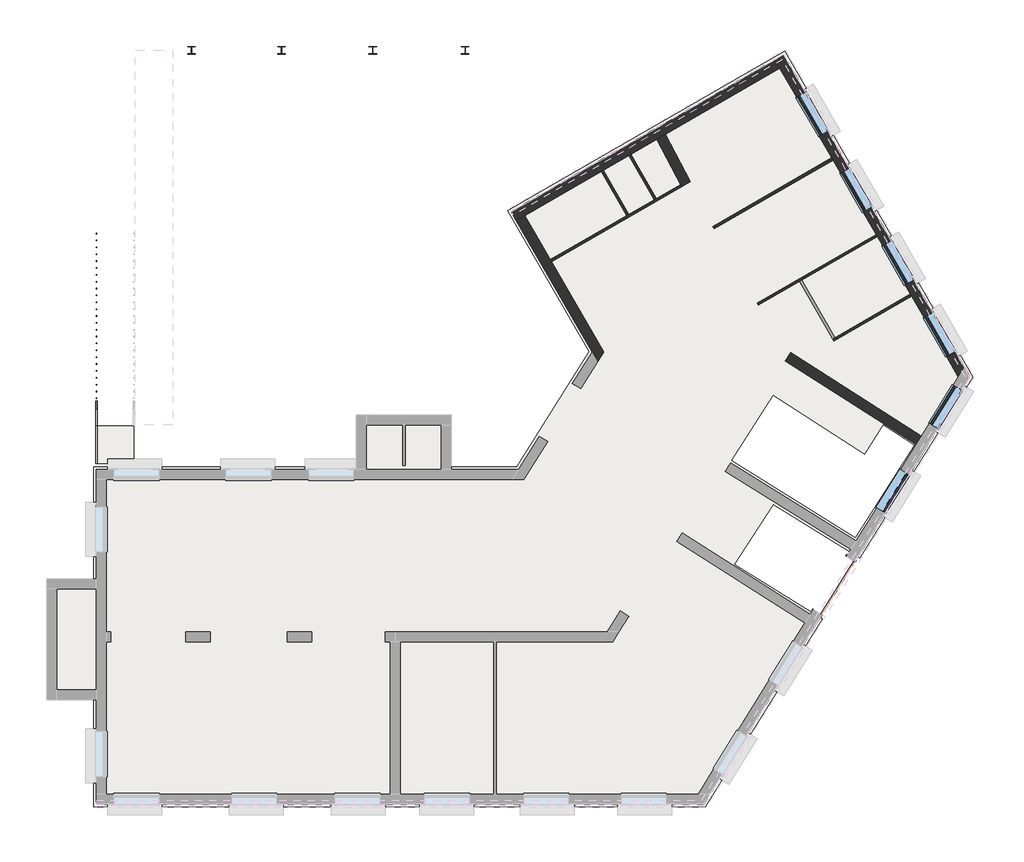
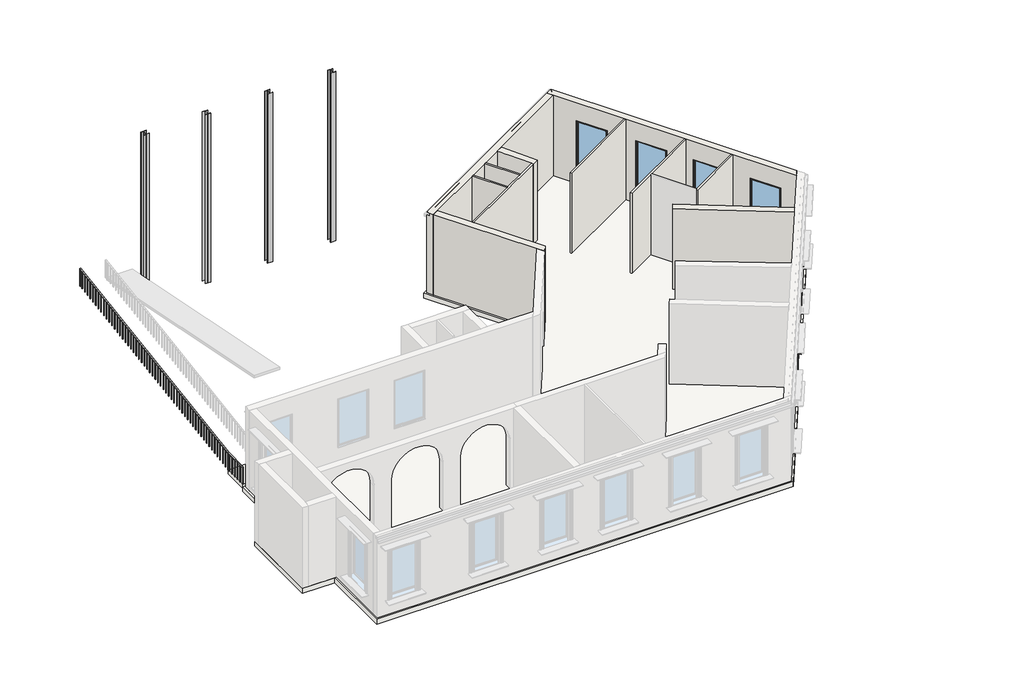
# One storey, part 2 of 3: 11 walls, 6 windows, 4 columns, 2 slabs, 1 door, 1 railing.
"""IFC4 building model written with IfcOpenShell, lengths in millimetres."""

from ifc_helpers import new_model, si_unit, frame, origin, place, context, project, spatial, polyline, outline, extrude, faceted_brep, transform, mapped, element, save
from components import uc_universal_columns_column_uc305x305x97_fef2955b, door_19680be1, windows_sgl_plain_1810x1210mm_53e896f1

model = new_model("IFC4")

# Units and contexts
model_context = context("Model", 3, world=origin())
ifc_project = project(units=[si_unit("LENGTHUNIT", "METRE", prefix="MILLI")], contexts=[model_context])

# Site, building, storey
site = spatial("IfcSite", under=ifc_project)
building = spatial("IfcBuilding", under=site)
storey = spatial("IfcBuildingStorey", under=building, Name="PLINT LEVEL +1.00", Elevation=1000.0)

# Columns
placement = place(None, origin())
uc_universal_columns_column_uc305x305x97_shape = uc_universal_columns_column_uc305x305x97_fef2955b(model_context)
element("IfcColumn", 1, ObjectType="UC-Universal Columns-Column : UC305x305x97", at=placement, inside=storey, context=model_context, shape_type="MappedRepresentation", body=[
    mapped(uc_universal_columns_column_uc305x305x97_shape, transform((-9531.6874983, 26290.0288254, 0.0), x_axis=(1.0, 0.0, 0.0), y_axis=(0.0, 1.0, 0.0), z_axis=(0.0, 0.0, 1.0))),
])
element("IfcColumn", 2, ObjectType="UC-Universal Columns-Column : UC305x305x97", at=placement, inside=storey, context=model_context, shape_type="MappedRepresentation", body=[
    mapped(uc_universal_columns_column_uc305x305x97_shape, transform((-5929.1066547, 26290.0288254, 0.0), x_axis=(1.0, 0.0, 0.0), y_axis=(0.0, 1.0, 0.0), z_axis=(0.0, 0.0, 1.0))),
])
element("IfcColumn", 3, ObjectType="UC-Universal Columns-Column : UC305x305x97", at=placement, inside=storey, context=model_context, shape_type="MappedRepresentation", body=[
    mapped(uc_universal_columns_column_uc305x305x97_shape, transform((-2271.6874983, 26290.0288254, 0.0), x_axis=(1.0, 0.0, 0.0), y_axis=(0.0, 1.0, 0.0), z_axis=(0.0, 0.0, 1.0))),
])
element("IfcColumn", 4, ObjectType="UC-Universal Columns-Column : UC305x305x97", at=placement, inside=storey, context=model_context, shape_type="MappedRepresentation", body=[
    mapped(uc_universal_columns_column_uc305x305x97_shape, transform((1428.3125017, 26290.0288254, 0.0), x_axis=(1.0, 0.0, 0.0), y_axis=(0.0, 1.0, 0.0), z_axis=(0.0, 0.0, 1.0))),
])

# Door
door_shape = door_19680be1(model_context)
element("IfcDoor", 5, ObjectType="Door-Double-Flush_Panel : 68\" x 80\"", at=placement, inside=storey, context=model_context, shape_type="MappedRepresentation", body=[
    mapped(door_shape, transform((16199.2771515, 4847.2937751, 1000.0), x_axis=(-0.5287625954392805, -0.8487697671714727, 0.0), y_axis=(0.8487697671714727, -0.5287625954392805, 0.0), z_axis=(0.0, 0.0, 1.0))),
])

# Railing
element("IfcRailing", 6, ObjectType="1100mm", at=placement, inside=storey, context=model_context, shape_type="SolidModel", body=[
    faceted_brep([(-13356.6874983, 26307.200745, 4400.0), (-13306.6874983, 26307.200745, 4400.0), (-13306.6874983, 26307.200745, 4349.4202574), (-13356.6874983, 26307.200745, 4349.4202574), (-13356.6874983, 11250.9967988, 2050.0), (-13356.6874983, 11247.200745, 2100.0), (-13306.6874983, 11250.9967988, 2050.0), (-13306.6874983, 11247.200745, 2100.0), (-13356.6874983, 9747.200745, 2100.0), (-13356.6874983, 9747.200745, 2050.0), (-13306.6874983, 9747.200745, 2050.0), (-13306.6874983, 9747.200745, 2100.0)], [[[0, 1, 2, 3]], [[4, 5, 0, 3]], [[6, 4, 3, 2]], [[7, 6, 2, 1]], [[5, 7, 1, 0]], [[8, 9, 10, 11]], [[9, 8, 5, 4]], [[10, 9, 4, 6]], [[11, 10, 6, 7]], [[8, 11, 7, 5]]]),
    extrude(outline(polyline([(26084.700745, 3267.9282869), (26084.700745, 4315.4395137), (26109.700745, 4319.2575748), (26109.700745, 3267.9282869), (26084.700745, 3267.9282869)])), frame((-13344.1874983, 0.0, 0.0), z_axis=(1.0, 0.0, 0.0), x_axis=(0.0, 1.0, 0.0)), (0.0, 0.0, 1.0), 25.0),
    extrude(outline(polyline([(25809.700745, 3225.9296149), (25809.700745, 4273.4408417), (25834.700745, 4277.2589028), (25834.700745, 3225.9296149), (25809.700745, 3225.9296149)])), frame((-13344.1874983, 0.0, 0.0), z_axis=(1.0, 0.0, 0.0), x_axis=(0.0, 1.0, 0.0)), (0.0, 0.0, 1.0), 25.0),
    extrude(outline(polyline([(25534.700745, 3183.9309429), (25534.700745, 4231.4421697), (25559.700745, 4235.2602308), (25559.700745, 3183.9309429), (25534.700745, 3183.9309429)])), frame((-13344.1874983, 0.0, 0.0), z_axis=(1.0, 0.0, 0.0), x_axis=(0.0, 1.0, 0.0)), (0.0, 0.0, 1.0), 25.0),
    extrude(outline(polyline([(25259.700745, 3141.9322709), (25259.700745, 4189.4434978), (25284.700745, 4193.2615589), (25284.700745, 3141.9322709), (25259.700745, 3141.9322709)])), frame((-13344.1874983, 0.0, 0.0), z_axis=(1.0, 0.0, 0.0), x_axis=(0.0, 1.0, 0.0)), (0.0, 0.0, 1.0), 25.0),
    extrude(outline(polyline([(24984.700745, 3099.9335989), (24984.700745, 4147.4448258), (25009.700745, 4151.2628869), (25009.700745, 3099.9335989), (24984.700745, 3099.9335989)])), frame((-13344.1874983, 0.0, 0.0), z_axis=(1.0, 0.0, 0.0), x_axis=(0.0, 1.0, 0.0)), (0.0, 0.0, 1.0), 25.0),
    extrude(outline(polyline([(24709.700745, 3057.934927), (24709.700745, 4105.4461538), (24734.700745, 4109.2642149), (24734.700745, 3057.934927), (24709.700745, 3057.934927)])), frame((-13344.1874983, 0.0, 0.0), z_axis=(1.0, 0.0, 0.0), x_axis=(0.0, 1.0, 0.0)), (0.0, 0.0, 1.0), 25.0),
    extrude(outline(polyline([(24434.700745, 3015.936255), (24434.700745, 4063.4474818), (24459.700745, 4067.2655429), (24459.700745, 3015.936255), (24434.700745, 3015.936255)])), frame((-13344.1874983, 0.0, 0.0), z_axis=(1.0, 0.0, 0.0), x_axis=(0.0, 1.0, 0.0)), (0.0, 0.0, 1.0), 25.0),
    extrude(outline(polyline([(24159.700745, 2973.937583), (24159.700745, 4021.4488099), (24184.700745, 4025.2668709), (24184.700745, 2973.937583), (24159.700745, 2973.937583)])), frame((-13344.1874983, 0.0, 0.0), z_axis=(1.0, 0.0, 0.0), x_axis=(0.0, 1.0, 0.0)), (0.0, 0.0, 1.0), 25.0),
    extrude(outline(polyline([(23884.700745, 2931.938911), (23884.700745, 3979.4501379), (23909.700745, 3983.268199), (23909.700745, 2931.938911), (23884.700745, 2931.938911)])), frame((-13344.1874983, 0.0, 0.0), z_axis=(1.0, 0.0, 0.0), x_axis=(0.0, 1.0, 0.0)), (0.0, 0.0, 1.0), 25.0),
    extrude(outline(polyline([(23609.700745, 2889.940239), (23609.700745, 3937.4514659), (23634.700745, 3941.269527), (23634.700745, 2889.940239), (23609.700745, 2889.940239)])), frame((-13344.1874983, 0.0, 0.0), z_axis=(1.0, 0.0, 0.0), x_axis=(0.0, 1.0, 0.0)), (0.0, 0.0, 1.0), 25.0),
    extrude(outline(polyline([(23334.700745, 2847.9415671), (23334.700745, 3895.4527939), (23359.700745, 3899.270855), (23359.700745, 2847.9415671), (23334.700745, 2847.9415671)])), frame((-13344.1874983, 0.0, 0.0), z_axis=(1.0, 0.0, 0.0), x_axis=(0.0, 1.0, 0.0)), (0.0, 0.0, 1.0), 25.0),
    extrude(outline(polyline([(23059.700745, 2805.9428951), (23059.700745, 3853.4541219), (23084.700745, 3857.272183), (23084.700745, 2805.9428951), (23059.700745, 2805.9428951)])), frame((-13344.1874983, 0.0, 0.0), z_axis=(1.0, 0.0, 0.0), x_axis=(0.0, 1.0, 0.0)), (0.0, 0.0, 1.0), 25.0),
    extrude(outline(polyline([(22784.700745, 2763.9442231), (22784.700745, 3811.45545), (22809.700745, 3815.273511), (22809.700745, 2763.9442231), (22784.700745, 2763.9442231)])), frame((-13344.1874983, 0.0, 0.0), z_axis=(1.0, 0.0, 0.0), x_axis=(0.0, 1.0, 0.0)), (0.0, 0.0, 1.0), 25.0),
    extrude(outline(polyline([(22509.700745, 2721.9455511), (22509.700745, 3769.456778), (22534.700745, 3773.2748391), (22534.700745, 2721.9455511), (22509.700745, 2721.9455511)])), frame((-13344.1874983, 0.0, 0.0), z_axis=(1.0, 0.0, 0.0), x_axis=(0.0, 1.0, 0.0)), (0.0, 0.0, 1.0), 25.0),
    extrude(outline(polyline([(22234.700745, 2679.9468792), (22234.700745, 3727.458106), (22259.700745, 3731.2761671), (22259.700745, 2679.9468792), (22234.700745, 2679.9468792)])), frame((-13344.1874983, 0.0, 0.0), z_axis=(1.0, 0.0, 0.0), x_axis=(0.0, 1.0, 0.0)), (0.0, 0.0, 1.0), 25.0),
    extrude(outline(polyline([(21959.700745, 2637.9482072), (21959.700745, 3685.459434), (21984.700745, 3689.2774951), (21984.700745, 2637.9482072), (21959.700745, 2637.9482072)])), frame((-13344.1874983, 0.0, 0.0), z_axis=(1.0, 0.0, 0.0), x_axis=(0.0, 1.0, 0.0)), (0.0, 0.0, 1.0), 25.0),
    extrude(outline(polyline([(21684.700745, 2595.9495352), (21684.700745, 3643.460762), (21709.700745, 3647.2788231), (21709.700745, 2595.9495352), (21684.700745, 2595.9495352)])), frame((-13344.1874983, 0.0, 0.0), z_axis=(1.0, 0.0, 0.0), x_axis=(0.0, 1.0, 0.0)), (0.0, 0.0, 1.0), 25.0),
    extrude(outline(polyline([(21409.700745, 2553.9508632), (21409.700745, 3601.4620901), (21434.700745, 3605.2801512), (21434.700745, 2553.9508632), (21409.700745, 2553.9508632)])), frame((-13344.1874983, 0.0, 0.0), z_axis=(1.0, 0.0, 0.0), x_axis=(0.0, 1.0, 0.0)), (0.0, 0.0, 1.0), 25.0),
    extrude(outline(polyline([(21134.700745, 2511.9521912), (21134.700745, 3559.4634181), (21159.700745, 3563.2814792), (21159.700745, 2511.9521912), (21134.700745, 2511.9521912)])), frame((-13344.1874983, 0.0, 0.0), z_axis=(1.0, 0.0, 0.0), x_axis=(0.0, 1.0, 0.0)), (0.0, 0.0, 1.0), 25.0),
    extrude(outline(polyline([(20859.700745, 2469.9535193), (20859.700745, 3517.4647461), (20884.700745, 3521.2828072), (20884.700745, 2469.9535193), (20859.700745, 2469.9535193)])), frame((-13344.1874983, 0.0, 0.0), z_axis=(1.0, 0.0, 0.0), x_axis=(0.0, 1.0, 0.0)), (0.0, 0.0, 1.0), 25.0),
    extrude(outline(polyline([(20584.700745, 2427.9548473), (20584.700745, 3475.4660741), (20609.700745, 3479.2841352), (20609.700745, 2427.9548473), (20584.700745, 2427.9548473)])), frame((-13344.1874983, 0.0, 0.0), z_axis=(1.0, 0.0, 0.0), x_axis=(0.0, 1.0, 0.0)), (0.0, 0.0, 1.0), 25.0),
    extrude(outline(polyline([(20309.700745, 2385.9561753), (20309.700745, 3433.4674022), (20334.700745, 3437.2854632), (20334.700745, 2385.9561753), (20309.700745, 2385.9561753)])), frame((-13344.1874983, 0.0, 0.0), z_axis=(1.0, 0.0, 0.0), x_axis=(0.0, 1.0, 0.0)), (0.0, 0.0, 1.0), 25.0),
    extrude(outline(polyline([(20034.700745, 2343.9575033), (20034.700745, 3391.4687302), (20059.700745, 3395.2867913), (20059.700745, 2343.9575033), (20034.700745, 2343.9575033)])), frame((-13344.1874983, 0.0, 0.0), z_axis=(1.0, 0.0, 0.0), x_axis=(0.0, 1.0, 0.0)), (0.0, 0.0, 1.0), 25.0),
    extrude(outline(polyline([(19759.700745, 2301.9588313), (19759.700745, 3349.4700582), (19784.700745, 3353.2881193), (19784.700745, 2301.9588313), (19759.700745, 2301.9588313)])), frame((-13344.1874983, 0.0, 0.0), z_axis=(1.0, 0.0, 0.0), x_axis=(0.0, 1.0, 0.0)), (0.0, 0.0, 1.0), 25.0),
    extrude(outline(polyline([(19484.700745, 2259.9601594), (19484.700745, 3307.4713862), (19509.700745, 3311.2894473), (19509.700745, 2259.9601594), (19484.700745, 2259.9601594)])), frame((-13344.1874983, 0.0, 0.0), z_axis=(1.0, 0.0, 0.0), x_axis=(0.0, 1.0, 0.0)), (0.0, 0.0, 1.0), 25.0),
    extrude(outline(polyline([(19209.700745, 2217.9614874), (19209.700745, 3265.4727142), (19234.700745, 3269.2907753), (19234.700745, 2217.9614874), (19209.700745, 2217.9614874)])), frame((-13344.1874983, 0.0, 0.0), z_axis=(1.0, 0.0, 0.0), x_axis=(0.0, 1.0, 0.0)), (0.0, 0.0, 1.0), 25.0),
    extrude(outline(polyline([(18934.700745, 2175.9628154), (18934.700745, 3223.4740423), (18959.700745, 3227.2921033), (18959.700745, 2175.9628154), (18934.700745, 2175.9628154)])), frame((-13344.1874983, 0.0, 0.0), z_axis=(1.0, 0.0, 0.0), x_axis=(0.0, 1.0, 0.0)), (0.0, 0.0, 1.0), 25.0),
    extrude(outline(polyline([(18659.700745, 2133.9641434), (18659.700745, 3181.4753703), (18684.700745, 3185.2934314), (18684.700745, 2133.9641434), (18659.700745, 2133.9641434)])), frame((-13344.1874983, 0.0, 0.0), z_axis=(1.0, 0.0, 0.0), x_axis=(0.0, 1.0, 0.0)), (0.0, 0.0, 1.0), 25.0),
    extrude(outline(polyline([(18384.700745, 2091.9654714), (18384.700745, 3139.4766983), (18409.700745, 3143.2947594), (18409.700745, 2091.9654714), (18384.700745, 2091.9654714)])), frame((-13344.1874983, 0.0, 0.0), z_axis=(1.0, 0.0, 0.0), x_axis=(0.0, 1.0, 0.0)), (0.0, 0.0, 1.0), 25.0),
    extrude(outline(polyline([(18109.700745, 2049.9667995), (18109.700745, 3097.4780263), (18134.700745, 3101.2960874), (18134.700745, 2049.9667995), (18109.700745, 2049.9667995)])), frame((-13344.1874983, 0.0, 0.0), z_axis=(1.0, 0.0, 0.0), x_axis=(0.0, 1.0, 0.0)), (0.0, 0.0, 1.0), 25.0),
    extrude(outline(polyline([(17834.700745, 2007.9681275), (17834.700745, 3055.4793543), (17859.700745, 3059.2974154), (17859.700745, 2007.9681275), (17834.700745, 2007.9681275)])), frame((-13344.1874983, 0.0, 0.0), z_axis=(1.0, 0.0, 0.0), x_axis=(0.0, 1.0, 0.0)), (0.0, 0.0, 1.0), 25.0),
    extrude(outline(polyline([(17559.700745, 1965.9694555), (17559.700745, 3013.4806824), (17584.700745, 3017.2987435), (17584.700745, 1965.9694555), (17559.700745, 1965.9694555)])), frame((-13344.1874983, 0.0, 0.0), z_axis=(1.0, 0.0, 0.0), x_axis=(0.0, 1.0, 0.0)), (0.0, 0.0, 1.0), 25.0),
    extrude(outline(polyline([(17284.700745, 1923.9707835), (17284.700745, 2971.4820104), (17309.700745, 2975.3000715), (17309.700745, 1923.9707835), (17284.700745, 1923.9707835)])), frame((-13344.1874983, 0.0, 0.0), z_axis=(1.0, 0.0, 0.0), x_axis=(0.0, 1.0, 0.0)), (0.0, 0.0, 1.0), 25.0),
    extrude(outline(polyline([(17009.700745, 1881.9721116), (17009.700745, 2929.4833384), (17034.700745, 2933.3013995), (17034.700745, 1881.9721116), (17009.700745, 1881.9721116)])), frame((-13344.1874983, 0.0, 0.0), z_axis=(1.0, 0.0, 0.0), x_axis=(0.0, 1.0, 0.0)), (0.0, 0.0, 1.0), 25.0),
    extrude(outline(polyline([(16734.700745, 1839.9734396), (16734.700745, 2887.4846664), (16759.700745, 2891.3027275), (16759.700745, 1839.9734396), (16734.700745, 1839.9734396)])), frame((-13344.1874983, 0.0, 0.0), z_axis=(1.0, 0.0, 0.0), x_axis=(0.0, 1.0, 0.0)), (0.0, 0.0, 1.0), 25.0),
    extrude(outline(polyline([(16459.700745, 1797.9747676), (16459.700745, 2845.4859944), (16484.700745, 2849.3040555), (16484.700745, 1797.9747676), (16459.700745, 1797.9747676)])), frame((-13344.1874983, 0.0, 0.0), z_axis=(1.0, 0.0, 0.0), x_axis=(0.0, 1.0, 0.0)), (0.0, 0.0, 1.0), 25.0),
    extrude(outline(polyline([(16184.700745, 1755.9760956), (16184.700745, 2803.4873225), (16209.700745, 2807.3053836), (16209.700745, 1755.9760956), (16184.700745, 1755.9760956)])), frame((-13344.1874983, 0.0, 0.0), z_axis=(1.0, 0.0, 0.0), x_axis=(0.0, 1.0, 0.0)), (0.0, 0.0, 1.0), 25.0),
    extrude(outline(polyline([(15909.700745, 1713.9774236), (15909.700745, 2761.4886505), (15934.700745, 2765.3067116), (15934.700745, 1713.9774236), (15909.700745, 1713.9774236)])), frame((-13344.1874983, 0.0, 0.0), z_axis=(1.0, 0.0, 0.0), x_axis=(0.0, 1.0, 0.0)), (0.0, 0.0, 1.0), 25.0),
    extrude(outline(polyline([(15634.700745, 1671.9787517), (15634.700745, 2719.4899785), (15659.700745, 2723.3080396), (15659.700745, 1671.9787517), (15634.700745, 1671.9787517)])), frame((-13344.1874983, 0.0, 0.0), z_axis=(1.0, 0.0, 0.0), x_axis=(0.0, 1.0, 0.0)), (0.0, 0.0, 1.0), 25.0),
    extrude(outline(polyline([(15359.700745, 1629.9800797), (15359.700745, 2677.4913065), (15384.700745, 2681.3093676), (15384.700745, 1629.9800797), (15359.700745, 1629.9800797)])), frame((-13344.1874983, 0.0, 0.0), z_axis=(1.0, 0.0, 0.0), x_axis=(0.0, 1.0, 0.0)), (0.0, 0.0, 1.0), 25.0),
    extrude(outline(polyline([(15084.700745, 1587.9814077), (15084.700745, 2635.4926346), (15109.700745, 2639.3106956), (15109.700745, 1587.9814077), (15084.700745, 1587.9814077)])), frame((-13344.1874983, 0.0, 0.0), z_axis=(1.0, 0.0, 0.0), x_axis=(0.0, 1.0, 0.0)), (0.0, 0.0, 1.0), 25.0),
    extrude(outline(polyline([(14809.700745, 1545.9827357), (14809.700745, 2593.4939626), (14834.700745, 2597.3120237), (14834.700745, 1545.9827357), (14809.700745, 1545.9827357)])), frame((-13344.1874983, 0.0, 0.0), z_axis=(1.0, 0.0, 0.0), x_axis=(0.0, 1.0, 0.0)), (0.0, 0.0, 1.0), 25.0),
    extrude(outline(polyline([(14534.700745, 1503.9840637), (14534.700745, 2551.4952906), (14559.700745, 2555.3133517), (14559.700745, 1503.9840637), (14534.700745, 1503.9840637)])), frame((-13344.1874983, 0.0, 0.0), z_axis=(1.0, 0.0, 0.0), x_axis=(0.0, 1.0, 0.0)), (0.0, 0.0, 1.0), 25.0),
    extrude(outline(polyline([(14259.700745, 1461.9853918), (14259.700745, 2509.4966186), (14284.700745, 2513.3146797), (14284.700745, 1461.9853918), (14259.700745, 1461.9853918)])), frame((-13344.1874983, 0.0, 0.0), z_axis=(1.0, 0.0, 0.0), x_axis=(0.0, 1.0, 0.0)), (0.0, 0.0, 1.0), 25.0),
    extrude(outline(polyline([(13984.700745, 1419.9867198), (13984.700745, 2467.4979466), (14009.700745, 2471.3160077), (14009.700745, 1419.9867198), (13984.700745, 1419.9867198)])), frame((-13344.1874983, 0.0, 0.0), z_axis=(1.0, 0.0, 0.0), x_axis=(0.0, 1.0, 0.0)), (0.0, 0.0, 1.0), 25.0),
    extrude(outline(polyline([(13709.700745, 1377.9880478), (13709.700745, 2425.4992747), (13734.700745, 2429.3173357), (13734.700745, 1377.9880478), (13709.700745, 1377.9880478)])), frame((-13344.1874983, 0.0, 0.0), z_axis=(1.0, 0.0, 0.0), x_axis=(0.0, 1.0, 0.0)), (0.0, 0.0, 1.0), 25.0),
    extrude(outline(polyline([(13434.700745, 1335.9893758), (13434.700745, 2383.5006027), (13459.700745, 2387.3186638), (13459.700745, 1335.9893758), (13434.700745, 1335.9893758)])), frame((-13344.1874983, 0.0, 0.0), z_axis=(1.0, 0.0, 0.0), x_axis=(0.0, 1.0, 0.0)), (0.0, 0.0, 1.0), 25.0),
    extrude(outline(polyline([(13159.700745, 1293.9907039), (13159.700745, 2341.5019307), (13184.700745, 2345.3199918), (13184.700745, 1293.9907039), (13159.700745, 1293.9907039)])), frame((-13344.1874983, 0.0, 0.0), z_axis=(1.0, 0.0, 0.0), x_axis=(0.0, 1.0, 0.0)), (0.0, 0.0, 1.0), 25.0),
    extrude(outline(polyline([(12884.700745, 1251.9920319), (12884.700745, 2299.5032587), (12909.700745, 2303.3213198), (12909.700745, 1251.9920319), (12884.700745, 1251.9920319)])), frame((-13344.1874983, 0.0, 0.0), z_axis=(1.0, 0.0, 0.0), x_axis=(0.0, 1.0, 0.0)), (0.0, 0.0, 1.0), 25.0),
    extrude(outline(polyline([(12609.700745, 1209.9933599), (12609.700745, 2257.5045867), (12634.700745, 2261.3226478), (12634.700745, 1209.9933599), (12609.700745, 1209.9933599)])), frame((-13344.1874983, 0.0, 0.0), z_axis=(1.0, 0.0, 0.0), x_axis=(0.0, 1.0, 0.0)), (0.0, 0.0, 1.0), 25.0),
    extrude(outline(polyline([(12334.700745, 1167.9946879), (12334.700745, 2215.5059148), (12359.700745, 2219.3239759), (12359.700745, 1167.9946879), (12334.700745, 1167.9946879)])), frame((-13344.1874983, 0.0, 0.0), z_axis=(1.0, 0.0, 0.0), x_axis=(0.0, 1.0, 0.0)), (0.0, 0.0, 1.0), 25.0),
    extrude(outline(polyline([(12059.700745, 1125.9960159), (12059.700745, 2173.5072428), (12084.700745, 2177.3253039), (12084.700745, 1125.9960159), (12059.700745, 1125.9960159)])), frame((-13344.1874983, 0.0, 0.0), z_axis=(1.0, 0.0, 0.0), x_axis=(0.0, 1.0, 0.0)), (0.0, 0.0, 1.0), 25.0),
    extrude(outline(polyline([(11784.700745, 1083.997344), (11784.700745, 2131.5085708), (11809.700745, 2135.3266319), (11809.700745, 1083.997344), (11784.700745, 1083.997344)])), frame((-13344.1874983, 0.0, 0.0), z_axis=(1.0, 0.0, 0.0), x_axis=(0.0, 1.0, 0.0)), (0.0, 0.0, 1.0), 25.0),
    extrude(outline(polyline([(11509.700745, 1041.998672), (11509.700745, 2089.5098988), (11534.700745, 2093.3279599), (11534.700745, 1041.998672), (11509.700745, 1041.998672)])), frame((-13344.1874983, 0.0, 0.0), z_axis=(1.0, 0.0, 0.0), x_axis=(0.0, 1.0, 0.0)), (0.0, 0.0, 1.0), 25.0),
    extrude(outline(polyline([(-13319.1874983, 11109.700745), (-13344.1874983, 11109.700745), (-13344.1874983, 11134.700745), (-13319.1874983, 11134.700745), (-13319.1874983, 11109.700745)])), frame((0.0, 0.0, 1000.0), z_axis=(0.0, 0.0, 1.0), x_axis=(1.0, 0.0, 0.0)), (0.0, 0.0, 1.0), 1050.0),
    extrude(outline(polyline([(-13319.1874983, 10834.700745), (-13344.1874983, 10834.700745), (-13344.1874983, 10859.700745), (-13319.1874983, 10859.700745), (-13319.1874983, 10834.700745)])), frame((0.0, 0.0, 1000.0), z_axis=(0.0, 0.0, 1.0), x_axis=(1.0, 0.0, 0.0)), (0.0, 0.0, 1.0), 1050.0),
    extrude(outline(polyline([(-13319.1874983, 10559.700745), (-13344.1874983, 10559.700745), (-13344.1874983, 10584.700745), (-13319.1874983, 10584.700745), (-13319.1874983, 10559.700745)])), frame((0.0, 0.0, 1000.0), z_axis=(0.0, 0.0, 1.0), x_axis=(1.0, 0.0, 0.0)), (0.0, 0.0, 1.0), 1050.0),
    extrude(outline(polyline([(-13319.1874983, 10284.700745), (-13344.1874983, 10284.700745), (-13344.1874983, 10309.700745), (-13319.1874983, 10309.700745), (-13319.1874983, 10284.700745)])), frame((0.0, 0.0, 1000.0), z_axis=(0.0, 0.0, 1.0), x_axis=(1.0, 0.0, 0.0)), (0.0, 0.0, 1.0), 1050.0),
    extrude(outline(polyline([(-13319.1874983, 10009.700745), (-13344.1874983, 10009.700745), (-13344.1874983, 10034.700745), (-13319.1874983, 10034.700745), (-13319.1874983, 10009.700745)])), frame((0.0, 0.0, 1000.0), z_axis=(0.0, 0.0, 1.0), x_axis=(1.0, 0.0, 0.0)), (0.0, 0.0, 1.0), 1050.0),
    extrude(outline(polyline([(-13319.1874983, 11234.700745), (-13344.1874983, 11234.700745), (-13344.1874983, 11259.700745), (-13319.1874983, 11259.700745), (-13319.1874983, 11234.700745)])), frame((0.0, 0.0, 1000.0), z_axis=(0.0, 0.0, 1.0), x_axis=(1.0, 0.0, 0.0)), (0.0, 0.0, 1.0), 1050.0),
    extrude(outline(polyline([(26282.200745, 3298.0909695), (26282.200745, 4345.6021963), (26307.200745, 4349.4202574), (26307.200745, 3298.0909695), (26282.200745, 3298.0909695)])), frame((-13344.1874983, 0.0, 0.0), z_axis=(1.0, 0.0, 0.0), x_axis=(0.0, 1.0, 0.0)), (0.0, 0.0, 1.0), 25.0),
    extrude(outline(polyline([(-13319.1874983, 9747.200745), (-13344.1874983, 9747.200745), (-13344.1874983, 9772.200745), (-13319.1874983, 9772.200745), (-13319.1874983, 9747.200745)])), frame((0.0, 0.0, 1000.0), z_axis=(0.0, 0.0, 1.0), x_axis=(1.0, 0.0, 0.0)), (0.0, 0.0, 1.0), 1050.0),
])

# Slabs
element("IfcSlab", 7, ObjectType="Floor_Timber_22Cbd-225Joist", at=placement, inside=storey, context=model_context, shape_type="SweptSolid", body=[
    extrude(outline(polyline([(-11831.6874983, 9747.200745), (-13331.6874983, 9747.200745), (-13331.6874983, 11247.200745), (-11831.6874983, 11247.200745), (-11831.6874983, 9747.200745)])), frame((0.0, 0.0, 753.0), z_axis=(0.0, 0.0, 1.0), x_axis=(1.0, 0.0, 0.0)), (0.0, 0.0, 1.0), 247.0),
])
element("IfcSlab", 8, ObjectType="Standard", at=placement, inside=storey, context=model_context, shape_type="Brep", body=[
    faceted_brep([(21757.1517651, 13201.4322483, 700.0), (21397.5743657, 12624.2385734, 700.0), (17559.1435041, 6462.7889989, 700.0), (17237.3603099, 5946.2625857, 700.0), (13767.6052629, 8107.8342571, 700.0), (12210.1330061, 5691.440391, 700.0), (15717.4348034, 3506.4780219, 700.0), (15390.3233626, 2981.3987069, 700.0), (11408.6578301, -3409.9711746, 700.0), (11034.8726536, -4009.9711746, 700.0), (-13431.6874983, -4009.9711746, 700.0), (-13431.6874983, -3409.9711746, 700.0), (-13431.6874983, 265.617935, 700.0), (-15331.6874983, 265.617935, 700.0), (-15331.6874983, 4705.5548037, 700.0), (-15331.6874983, 5105.5548037, 700.0), (-13431.6874983, 5105.5548037, 700.0), (-13431.6874983, 9590.0288254, 700.0), (-12831.6874983, 9590.0288254, 700.0), (-2931.9484639, 9590.0288254, 700.0), (-2931.9484639, 11690.0288254, 700.0), (-2531.9484639, 11690.0288254, 700.0), (868.0515361, 11690.0288254, 700.0), (868.0515361, 11290.0288254, 700.0), (868.0515361, 9590.0288254, 700.0), (3502.0197862, 9590.0288254, 700.0), (6391.9075202, 14214.8159512, 700.0), (3132.0366131, 19861.0779885, 700.0), (3651.6518554, 20161.0779885, 700.0), (14217.1617815, 26261.0779885, 700.0), (14517.1617815, 25741.4627462, 700.0), (12094.2333635, 9851.6473326, 700.0), (17049.2264628, 6778.9948596, 700.0), (19416.7227848, 10481.7591236, 700.0), (19373.2666467, 10509.5443781, 700.0), (18175.4488627, 11275.412523, 700.0), (18148.514524, 11233.2872171, 700.0), (17429.3561858, 10108.5235712, 700.0), (13758.9801451, 12455.3113105, 700.0), (12183.9257768, 9991.9262676, 700.0), (21757.1517651, 13201.4322483, 1000.0), (14217.1617815, 26261.0779885, 1000.0), (3132.0366131, 19861.0779885, 1000.0), (6391.9075202, 14214.8159512, 1000.0), (3502.0197862, 9590.0288254, 1000.0), (868.0515361, 9590.0288254, 1000.0), (868.0515361, 11690.0288254, 1000.0), (-2931.9484639, 11690.0288254, 1000.0), (-2931.9484639, 9590.0288254, 1000.0), (-13431.6874983, 9590.0288254, 1000.0), (-13431.6874983, 5105.5548037, 1000.0), (-15331.6874983, 5105.5548037, 1000.0), (-15331.6874983, 265.617935, 1000.0), (-13431.6874983, 265.617935, 1000.0), (-13431.6874983, -4009.9711746, 1000.0), (11034.8726536, -4009.9711746, 1000.0), (15717.4348034, 3506.4780219, 1000.0), (12210.1330061, 5691.440391, 1000.0), (13767.6052629, 8107.8342571, 1000.0), (17237.3603099, 5946.2625857, 1000.0), (12094.2333635, 9851.6473326, 1000.0), (13758.9801451, 12455.3113105, 1000.0), (17429.3561858, 10108.5235712, 1000.0), (18148.514524, 11233.2872171, 1000.0), (18175.4488627, 11275.412523, 1000.0), (19373.2666467, 10509.5443781, 1000.0), (19416.7227848, 10481.7591236, 1000.0), (17049.2264628, 6778.9948596, 1000.0)], [[[0, 1, 2, 3, 4, 5, 6, 7, 8, 9, 10, 11, 12, 13, 14, 15, 16, 17, 18, 19, 20, 21, 22, 23, 24, 25, 26, 27, 28, 29, 30], [31, 32, 33, 34, 35, 36, 37, 38, 39]], [[40, 41, 42, 43, 44, 45, 46, 47, 48, 49, 50, 51, 52, 53, 54, 55, 56, 57, 58, 59], [60, 61, 62, 63, 64, 65, 66, 67]], [[3, 2, 1, 0, 40, 59]], [[10, 9, 55, 54]], [[12, 11, 10, 54, 53]], [[13, 12, 53, 52]], [[15, 14, 13, 52, 51]], [[16, 15, 51, 50]], [[17, 16, 50, 49]], [[19, 18, 17, 49, 48]], [[20, 19, 48, 47]], [[22, 21, 20, 47, 46]], [[24, 23, 22, 46, 45]], [[25, 24, 45, 44]], [[26, 25, 44, 43]], [[27, 26, 43, 42]], [[29, 28, 27, 42, 41]], [[0, 30, 29, 41, 40]], [[32, 31, 60, 67]], [[33, 32, 67, 66]], [[35, 34, 33, 66, 65, 64]], [[31, 39, 38, 61, 60]], [[37, 36, 35, 64, 63, 62]], [[38, 37, 62, 61]], [[4, 3, 59, 58]], [[6, 5, 57, 56]], [[9, 8, 7, 6, 56, 55]], [[5, 4, 58, 57]]]),
])

# Walls
element("IfcWall", 9, ObjectType="Wall-Partn_12P-70MStd-12P", at=placement, inside=storey, context=model_context, shape_type="SweptSolid", body=[
    extrude(outline(polyline([(11346.9011613, 19231.6879919), (16110.3990796, 21981.8947974), (16157.8990796, 21899.622384), (11394.4011613, 19149.4155785), (11346.9011613, 19231.6879919)])), frame((0.0, 0.0, 1000.0), z_axis=(0.0, 0.0, 1.0), x_axis=(1.0, 0.0, 0.0)), (0.0, 0.0, 1.0), 5000.0),
])
element("IfcWall", 10, ObjectType="Wall-Partn_12P-70MStd-12P", at=placement, inside=storey, context=model_context, shape_type="SweptSolid", body=[
    extrude(outline(polyline([(7899.7081317, 19667.9391474), (6874.1586807, 21444.2429023), (6956.431094, 21491.7429023), (7981.9805451, 19715.4391474), (7899.7081317, 19667.9391474)])), frame((0.0, 0.0, 1000.0), z_axis=(0.0, 0.0, 1.0), x_axis=(1.0, 0.0, 0.0)), (0.0, 0.0, 1.0), 5000.0),
])
element("IfcWall", 11, ObjectType="Wall-Partn_12P-70MStd-12P", at=placement, inside=storey, context=model_context, shape_type="Brep", body=[
    faceted_brep([(4888.0987661, 17819.4891183, 1000.0), (10099.4385908, 20828.2575689, 1000.0), (10099.4385908, 20828.2575689, 6000.0), (4888.0987661, 17819.4891183, 6000.0), (4840.5987661, 17901.7615316, 1000.0), (4840.5987661, 17901.7615316, 6000.0), (7899.7081317, 19667.9391474, 6000.0), (7981.9805451, 19715.4391474, 6000.0), (9007.9878242, 20307.8047262, 6000.0), (9090.2602376, 20355.3047262, 6000.0), (10054.8116067, 20912.1887188, 6000.0), (10054.8116067, 20912.1887188, 1000.0), (9090.2602376, 20355.3047262, 1000.0), (9007.9878242, 20307.8047262, 1000.0), (7981.9805451, 19715.4391474, 1000.0), (7899.7081317, 19667.9391474, 1000.0)], [[[0, 1, 2, 3]], [[4, 5, 6, 7, 8, 9, 10, 11, 12, 13, 14, 15]], [[1, 0, 4, 15, 14, 13, 12, 11]], [[0, 3, 5, 4]], [[3, 2, 10, 9, 8, 7, 6, 5]], [[2, 1, 11, 10]]]),
])
element("IfcWall", 12, ObjectType="Wall-Partn_12P-70MStd-12P", at=placement, inside=storey, context=model_context, shape_type="Brep", body=[
    faceted_brep([(17884.1490796, 18909.6696774, 1000.0), (13120.6511613, 16159.462872, 1000.0), (13120.6511613, 16159.462872, 6000.0), (17884.1490796, 18909.6696774, 6000.0), (17931.6490796, 18827.3972641, 1000.0), (17931.6490796, 18827.3972641, 6000.0), (14900.5601664, 17077.3972641, 6000.0), (14818.287753, 17029.8972641, 6000.0), (13168.1511613, 16077.1904586, 6000.0), (13168.1511613, 16077.1904586, 1000.0), (14818.287753, 17029.8972641, 1000.0), (14900.5601664, 17077.3972641, 1000.0)], [[[0, 1, 2, 3]], [[4, 5, 6, 7, 8, 9, 10, 11]], [[1, 0, 4, 11, 10, 9]], [[2, 1, 9, 8]], [[0, 3, 5, 4]], [[3, 2, 8, 7, 6, 5]]]),
])
element("IfcWall", 13, ObjectType="Wall-Partn_12P-70MStd-12P", at=placement, inside=storey, context=model_context, shape_type="Brep", body=[
    faceted_brep([(19257.8990796, 16530.2648805, 1000.0), (16226.8101664, 14780.2648805, 1000.0), (16144.537753, 14732.7648805, 1000.0), (16144.537753, 14732.7648805, 6000.0), (16226.8101664, 14780.2648805, 6000.0), (19257.8990796, 16530.2648805, 6000.0), (19305.3990796, 16447.9924672, 1000.0), (19305.3990796, 16447.9924672, 6000.0), (16192.037753, 14650.4924672, 6000.0), (16192.037753, 14650.4924672, 1000.0)], [[[0, 1, 2, 3, 4, 5]], [[6, 7, 8, 9]], [[2, 1, 0, 6, 9]], [[0, 5, 7, 6]], [[3, 2, 9, 8]], [[5, 4, 3, 8, 7]]]),
])
element("IfcWall", 14, ObjectType="Wall-Partn_12P-70MStd-12P", at=placement, inside=storey, context=model_context, shape_type="SweptSolid", body=[
    extrude(outline(polyline([(8064.7107865, 22131.6084811), (9090.2602376, 20355.3047262), (9007.9878242, 20307.8047262), (7982.4383731, 22084.1084811), (8064.7107865, 22131.6084811)])), frame((0.0, 0.0, 1000.0), z_axis=(0.0, 0.0, 1.0), x_axis=(1.0, 0.0, 0.0)), (0.0, 0.0, 1.0), 5000.0),
])
element("IfcWall", 15, ObjectType="ug wall 2", at=placement, inside=storey, context=model_context, shape_type="Brep", body=[
    faceted_brep([(13834.1490796, 25924.4754481, 1000.0), (14034.1490796, 25578.0652866, 1000.0), (16110.3990796, 21981.8947974, 1000.0), (16157.8990796, 21899.622384, 1000.0), (17884.1490796, 18909.6696774, 1000.0), (17931.6490796, 18827.3972641, 1000.0), (19257.8990796, 16530.2648805, 1000.0), (19305.3990796, 16447.9924672, 1000.0), (21174.1557572, 13211.2109546, 1000.0), (21174.1557572, 13211.2109546, 6000.0), (19305.3990796, 16447.9924672, 6000.0), (19257.8990796, 16530.2648805, 6000.0), (17931.6490796, 18827.3972641, 6000.0), (17884.1490796, 18909.6696774, 6000.0), (16157.8990796, 21899.622384, 6000.0), (16110.3990796, 21981.8947974, 6000.0), (14034.1490796, 25578.0652866, 6000.0), (13834.1490796, 25924.4754481, 6000.0), (13834.1490796, 25924.4754481, 5992.4), (13910.3490796, 25792.4931766, 5992.4), (13910.3490796, 25792.4931766, 5840.0), (13834.1490796, 25924.4754481, 5840.0), (13834.1490796, 25924.4754481, 5700.0), (20710.3990796, 14014.4610825, 4900.0), (20710.3990796, 14014.4610825, 1900.0), (19805.3990796, 15581.9670634, 1900.0), (19805.3990796, 15581.9670634, 4900.0), (19047.2740796, 16895.0780819, 4900.0), (19047.2740796, 16895.0780819, 1900.0), (18142.2740796, 18462.5840627, 1900.0), (18142.2740796, 18462.5840627, 4900.0), (17362.8990796, 19812.5011609, 4900.0), (17362.8990796, 19812.5011609, 1900.0), (16457.8990796, 21380.0071417, 1900.0), (16457.8990796, 21380.0071417, 4900.0), (15610.3990796, 22847.9202011, 4900.0), (15610.3990796, 22847.9202011, 1900.0), (14705.3990796, 24415.426182, 1900.0), (14705.3990796, 24415.426182, 4900.0), (21413.8740235, 13596.0067379, 1000.0), (14180.5592412, 26124.4754481, 1000.0), (14180.5592412, 26124.4754481, 5700.0), (14180.5592412, 26124.4754481, 5840.0), (21413.8740235, 13596.0067379, 5840.0), (21413.8740235, 13596.0067379, 5700.0), (21056.8092412, 14214.4610825, 1900.0), (21056.8092412, 14214.4610825, 4900.0), (20151.8092412, 15781.9670634, 4900.0), (20151.8092412, 15781.9670634, 1900.0), (19393.6842412, 17095.0780819, 1900.0), (19393.6842412, 17095.0780819, 4900.0), (18488.6842412, 18662.5840627, 4900.0), (18488.6842412, 18662.5840627, 1900.0), (17709.3092412, 20012.5011609, 1900.0), (17709.3092412, 20012.5011609, 4900.0), (16804.3092412, 21580.0071417, 4900.0), (16804.3092412, 21580.0071417, 1900.0), (15956.8092412, 23047.9202011, 1900.0), (15956.8092412, 23047.9202011, 4900.0), (15051.8092412, 24615.426182, 4900.0), (15051.8092412, 24615.426182, 1900.0), (14180.5592412, 26124.4754481, 6000.0), (21413.8740235, 13596.0067379, 6000.0), (21413.8740235, 13596.0067379, 5992.4), (14180.5592412, 26124.4754481, 5992.4), (21322.5413641, 13449.3995444, 5840.0), (21322.5413641, 13449.3995444, 5992.4), (14124.7769696, 25916.2931766, 5840.0), (14124.7769696, 25916.2931766, 5992.4)], [[[0, 1, 2, 3, 4, 5, 6, 7, 8, 9, 10, 11, 12, 13, 14, 15, 16, 17, 18, 19, 20, 21, 22], [23, 24, 25, 26], [27, 28, 29, 30], [31, 32, 33, 34], [35, 36, 37, 38]], [[39, 40, 41, 42, 43, 44], [45, 46, 47, 48], [49, 50, 51, 52], [53, 54, 55, 56], [57, 58, 59, 60]], [[61, 62, 63, 64]], [[8, 7, 6, 5, 4, 3, 2, 1, 0, 40, 39]], [[9, 8, 39, 44, 43, 65, 66, 63, 62]], [[40, 0, 22, 21, 42, 41]], [[17, 61, 64, 18]], [[17, 16, 15, 14, 13, 12, 11, 10, 9, 62, 61]], [[24, 23, 46, 45]], [[25, 24, 45, 48]], [[26, 25, 48, 47]], [[23, 26, 47, 46]], [[28, 27, 50, 49]], [[29, 28, 49, 52]], [[30, 29, 52, 51]], [[27, 30, 51, 50]], [[32, 31, 54, 53]], [[33, 32, 53, 56]], [[34, 33, 56, 55]], [[31, 34, 55, 54]], [[36, 35, 58, 57]], [[37, 36, 57, 60]], [[38, 37, 60, 59]], [[35, 38, 59, 58]], [[20, 67, 65, 43, 42, 21]], [[68, 67, 20, 19]], [[66, 68, 19, 18, 64, 63]], [[67, 68, 66, 65]]]),
])
element("IfcWall", 16, ObjectType="ug wall 2", at=placement, inside=storey, context=model_context, shape_type="Brep", body=[
    faceted_brep([(3468.6391535, 19478.0652866, 1000.0), (3815.049315, 19678.0652866, 1000.0), (6874.1586807, 21444.2429023, 1000.0), (6956.431094, 21491.7429023, 1000.0), (7982.4383731, 22084.1084811, 1000.0), (8064.7107865, 22131.6084811, 1000.0), (9091.2920496, 22724.3054497, 1000.0), (9437.9133635, 22924.4273586, 1000.0), (14034.1490796, 25578.0652866, 1000.0), (14034.1490796, 25578.0652866, 6000.0), (9437.9133635, 22924.4273586, 6000.0), (9091.2920496, 22724.3054497, 6000.0), (8064.7107865, 22131.6084811, 6000.0), (7982.4383731, 22084.1084811, 6000.0), (6956.431094, 21491.7429023, 6000.0), (6874.1586807, 21444.2429023, 6000.0), (3815.049315, 19678.0652866, 6000.0), (3468.6391535, 19478.0652866, 6000.0), (13834.1490796, 25924.4754481, 1000.0), (3268.6391535, 19824.4754481, 1000.0), (3268.6391535, 19824.4754481, 5700.0), (3268.6391535, 19824.4754481, 5840.0), (13834.1490796, 25924.4754481, 5840.0), (13834.1490796, 25924.4754481, 5700.0), (3268.6391535, 19824.4754481, 6000.0), (13834.1490796, 25924.4754481, 6000.0), (13834.1490796, 25924.4754481, 5992.4), (3268.6391535, 19824.4754481, 5992.4), (13910.3490796, 25792.4931766, 5840.0), (13910.3490796, 25792.4931766, 5992.4), (3344.8391535, 19692.4931766, 5992.4), (3344.8391535, 19692.4931766, 5840.0)], [[[0, 1, 2, 3, 4, 5, 6, 7, 8, 9, 10, 11, 12, 13, 14, 15, 16, 17]], [[18, 19, 20, 21, 22, 23]], [[24, 25, 26, 27]], [[8, 7, 6, 5, 4, 3, 2, 1, 0, 19, 18]], [[9, 8, 18, 23, 22, 28, 29, 26, 25]], [[0, 17, 24, 27, 30, 31, 21, 20, 19]], [[17, 16, 15, 14, 13, 12, 11, 10, 9, 25, 24]], [[31, 28, 22, 21]], [[28, 31, 30, 29]], [[29, 30, 27, 26]]]),
])
element("IfcWall", 17, ObjectType="ug wall 2", at=placement, inside=storey, context=model_context, shape_type="Brep", body=[
    faceted_brep([(6975.1353769, 14204.6356711, 1000.0), (4888.0987661, 17819.4891183, 1000.0), (4840.5987661, 17901.7615316, 1000.0), (3815.049315, 19678.0652866, 1000.0), (3815.049315, 19678.0652866, 6000.0), (4840.5987661, 17901.7615316, 6000.0), (4888.0987661, 17819.4891183, 6000.0), (6975.1353769, 14204.6356711, 6000.0), (6735.0671017, 13820.446121, 1000.0), (6735.0671017, 13820.446121, 6000.0), (6508.5530916, 14212.7798952, 6000.0), (3468.6391535, 19478.0652866, 6000.0), (3468.6391535, 19478.0652866, 1000.0), (6508.5530916, 14212.7798952, 1000.0)], [[[0, 1, 2, 3, 4, 5, 6, 7]], [[8, 9, 10, 11, 12, 13]], [[3, 2, 1, 0, 8, 13, 12]], [[4, 3, 12, 11]], [[0, 7, 9, 8]], [[7, 6, 5, 4, 11, 10, 9]]]),
])
element("IfcWall", 18, ObjectType="ug wall 2", at=placement, inside=storey, context=model_context, shape_type="Brep", body=[
    faceted_brep([(10446.0599046, 21028.3794778, 1000.0), (9437.9133635, 22924.4273586, 1000.0), (9437.9133635, 22924.4273586, 6000.0), (10446.0599046, 21028.3794778, 6000.0), (10099.4385908, 20828.2575689, 1000.0), (10099.4385908, 20828.2575689, 6000.0), (10054.8116067, 20912.1887188, 6000.0), (9091.2920496, 22724.3054497, 6000.0), (9091.2920496, 22724.3054497, 1000.0), (10054.8116067, 20912.1887188, 1000.0)], [[[0, 1, 2, 3]], [[4, 5, 6, 7, 8, 9]], [[1, 0, 4, 9, 8]], [[2, 1, 8, 7]], [[3, 2, 7, 6, 5]], [[0, 3, 5, 4]]]),
])
element("IfcWall", 19, ObjectType="ug wall 2", at=placement, inside=storey, context=model_context, shape_type="Brep", body=[
    faceted_brep([(14253.3207412, 13842.5138153, 1000.0), (19483.963011, 10498.1134019, 1000.0), (19483.963011, 10498.1134019, 6000.0), (19476.0564365, 10503.1687564, 6000.0), (15369.2945182, 13128.9755979, 6000.0), (14253.3207412, 13842.5138153, 6000.0), (14468.7954508, 14179.5162626, 1000.0), (14468.7954508, 14179.5162626, 6000.0), (19695.4826147, 10837.6446893, 6000.0), (19695.4826147, 10837.6446893, 1000.0)], [[[0, 1, 2, 3, 4, 5]], [[6, 7, 8, 9]], [[1, 0, 6, 9]], [[0, 5, 7, 6]], [[2, 1, 9, 8]], [[5, 4, 3, 2, 8, 7]]]),
])

# Windows
windows_sgl_plain_1810x1210mm_shape = windows_sgl_plain_1810x1210mm_53e896f1(model_context)
element("IfcWindow", 20, ObjectType="Windows_Sgl_Plain : 1810x1210mm", at=placement, inside=storey, context=model_context, shape_type="MappedRepresentation", body=[
    mapped(windows_sgl_plain_1810x1210mm_shape, transform((20669.9514038, 12007.627371, 2790.0), x_axis=(0.5287625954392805, 0.8487697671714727, 0.0), y_axis=(-0.8487697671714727, 0.5287625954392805, 0.0), z_axis=(0.0, 0.0, 1.0))),
])
element("IfcWindow", 21, ObjectType="Windows_Sgl_Plain : 1810x1210mm", at=placement, inside=storey, context=model_context, shape_type="MappedRepresentation", body=[
    mapped(windows_sgl_plain_1810x1210mm_shape, transform((20438.427763, 14902.4423569, 2790.0), x_axis=(-0.49999999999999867, 0.8660254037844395, 0.0), y_axis=(-0.8660254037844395, -0.49999999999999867, 0.0), z_axis=(0.0, 0.0, 1.0))),
])
element("IfcWindow", 22, ObjectType="Windows_Sgl_Plain : 1810x1210mm", at=placement, inside=storey, context=model_context, shape_type="MappedRepresentation", body=[
    mapped(windows_sgl_plain_1810x1210mm_shape, transform((18775.302763, 17783.0593562, 2790.0), x_axis=(-0.49999999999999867, 0.8660254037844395, 0.0), y_axis=(-0.8660254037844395, -0.49999999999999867, 0.0), z_axis=(0.0, 0.0, 1.0))),
])
element("IfcWindow", 23, ObjectType="Windows_Sgl_Plain : 1810x1210mm", at=placement, inside=storey, context=model_context, shape_type="MappedRepresentation", body=[
    mapped(windows_sgl_plain_1810x1210mm_shape, transform((17090.927763, 20700.4824352, 2790.0), x_axis=(-0.49999999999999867, 0.8660254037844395, 0.0), y_axis=(-0.8660254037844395, -0.49999999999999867, 0.0), z_axis=(0.0, 0.0, 1.0))),
])
element("IfcWindow", 24, ObjectType="Windows_Sgl_Plain : 1810x1210mm", at=placement, inside=storey, context=model_context, shape_type="MappedRepresentation", body=[
    mapped(windows_sgl_plain_1810x1210mm_shape, transform((15338.427763, 23735.9014755, 2790.0), x_axis=(-0.49999999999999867, 0.8660254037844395, 0.0), y_axis=(-0.8660254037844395, -0.49999999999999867, 0.0), z_axis=(0.0, 0.0, 1.0))),
])
element("IfcWindow", 25, ObjectType="Windows_Sgl_Plain : 1810x1210mm", at=placement, inside=storey, context=model_context, shape_type="MappedRepresentation", body=[
    mapped(windows_sgl_plain_1810x1210mm_shape, transform((18546.3572828, 8630.8201472, 2791.8405332), x_axis=(-0.5287625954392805, -0.8487697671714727, 0.0), y_axis=(0.8487697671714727, -0.5287625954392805, 0.0), z_axis=(0.0, 0.0, 1.0))),
])

save(model, "model.ifc")
